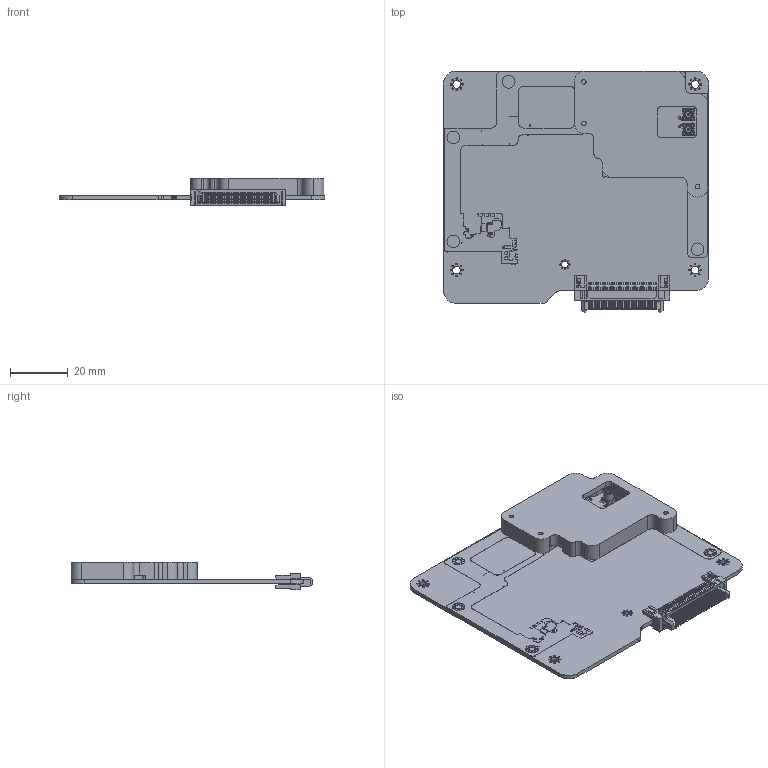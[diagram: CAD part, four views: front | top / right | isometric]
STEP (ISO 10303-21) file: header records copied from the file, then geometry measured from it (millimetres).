
FILE_DESCRIPTION (( 'STEP AP214' ), '1' );
FILE_NAME ('040300_001_SBandSB.STEP', '2026-11-16T13:46:16', ( '' ), ( '' ), 'SwSTEP 2.0', 'SolidWorks 2024', '' );
FILE_SCHEMA (( 'AUTOMOTIVE_DESIGN' ));
Length unit declared in the file: millimetre
Products named in the file (7): CoaxConnectorPCb_Standard; 040300_STR_002_SBandShielding_Standard; SB_2_Standard; 040300_ELE_002_SBandSB_Standard; 040300_ELE_001_SBandPCB_Standard; 040300_001_SBandSB; SAMTEC_ERM8-030-01-X-D-EM2-SL-XX_CMP-043-000000-5
Assembly tree (7 placements, depth 3):
  040300_001_SBandSB
    SB_2_Standard
      SAMTEC_ERM8-030-01-X-D-EM2-SL-XX_CMP-043-000000-5
    040300_ELE_002_SBandSB_Standard
      040300_ELE_001_SBandPCB_Standard
      040300_STR_002_SBandShielding_Standard
      CoaxConnectorPCb_Standard
    CoaxConnectorPCb_Standard
Bounding box: 92 x 83.86 x 9.63 mm (x, y, z)
Volume: 15841.6 mm3; surface area: 25936.8 mm2
Topology: 8 solids, 8 shells, 5479 faces, 16224 edges, 10706 vertices
Faces by surface type: plane 3229, cylinder 2222, cone 28
Entity records: 241757 total; most frequent: CARTESIAN_POINT 39627, ORIENTED_EDGE 32152, DIRECTION 27037, EDGE_CURVE 16076, VECTOR 11125, LINE 11125, VERTEX_POINT 10614, AXIS2_PLACEMENT_3D 7956
